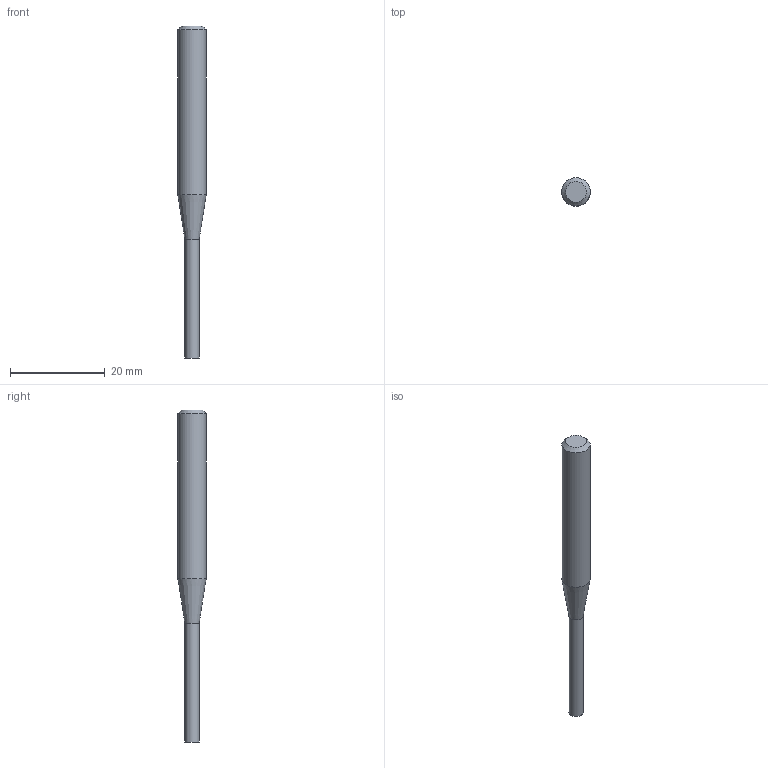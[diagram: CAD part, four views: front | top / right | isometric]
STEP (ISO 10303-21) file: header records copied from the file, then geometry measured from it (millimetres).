
FILE_DESCRIPTION((''),'2;1');
FILE_NAME('C:\Users\nsx150\Desktop\RSE230_20210427\01-00644-03005 RSE230 D3X25.step','2021-05-07T14:53:55',(''),(''),'STEP Write','Mastercam 2021 ... CNC Software, Inc.','');
FILE_SCHEMA(('AUTOMOTIVE_DESIGN'));
Length unit declared in the file: millimetre
Products named in the file (1): None
Bounding box: 6 x 6 x 70 mm (x, y, z)
Volume: 1332 mm3; surface area: 1080.7 mm2
Topology: 2 solids, 2 shells, 8 faces, 10 edges, 6 vertices
Faces by surface type: plane 4, cylinder 2, cone 2
Full cylindrical faces by diameter (mm): 3 x1, 6 x1
Entity records: 190 total; most frequent: DIRECTION 32, CARTESIAN_POINT 22, AXIS2_PLACEMENT_3D 16, ORIENTED_EDGE 12, EDGE_LOOP 12, STYLED_ITEM 11, ADVANCED_FACE 8, VERTEX_POINT 6
